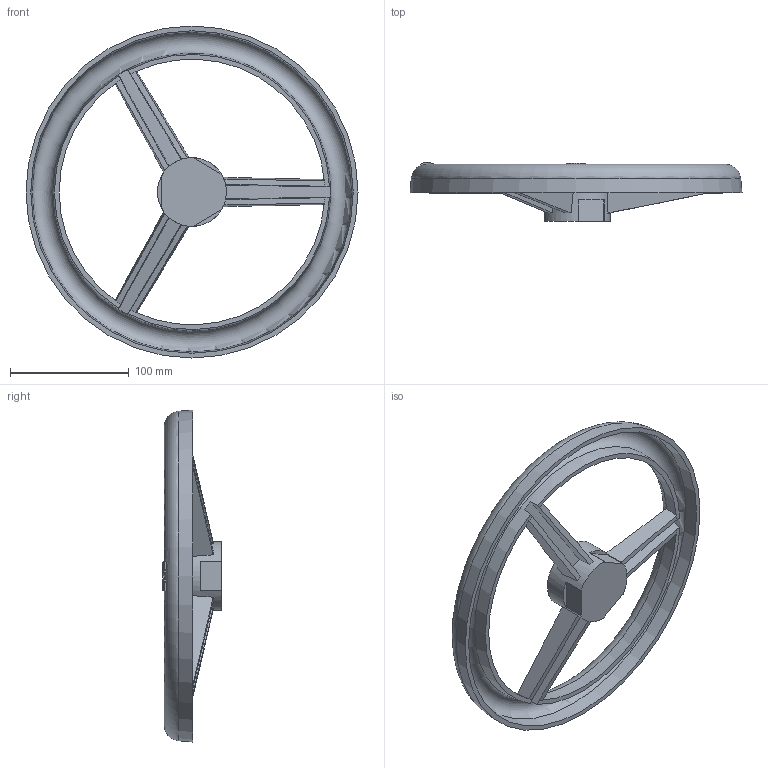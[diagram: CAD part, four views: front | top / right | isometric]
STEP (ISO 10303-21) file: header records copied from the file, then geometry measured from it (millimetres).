
FILE_DESCRIPTION (( 'STEP AP203' ), '1' );
FILE_NAME ('O_08_66_DN200_AA0.step', '2018-07-17T10:52:10', ( 'Windows User' ), ( 'AVK' ), 'SwSTEP 2.0', 'SolidWorks 2012', '' );
FILE_SCHEMA (( 'CONFIG_CONTROL_DESIGN' ));
Length unit declared in the file: millimetre
Products named in the file (1): O_08_66_DN200_AA0
Bounding box: 280 x 49.5 x 280 mm (x, y, z)
Volume: 329293.9 mm3; surface area: 130493.4 mm2
Topology: 1 solids, 1 shells, 133 faces, 373 edges, 246 vertices
Faces by surface type: plane 61, bspline 45, cone 18, torus 6, cylinder 3
Full cylindrical faces by diameter (mm): 16 x1, 20 x1, 58 x1
Entity records: 6988 total; most frequent: CARTESIAN_POINT 4037, ORIENTED_EDGE 722, DIRECTION 380, EDGE_CURVE 361, VERTEX_POINT 242, B_SPLINE_CURVE_WITH_KNOTS 202, EDGE_LOOP 151, FACE_OUTER_BOUND 138
